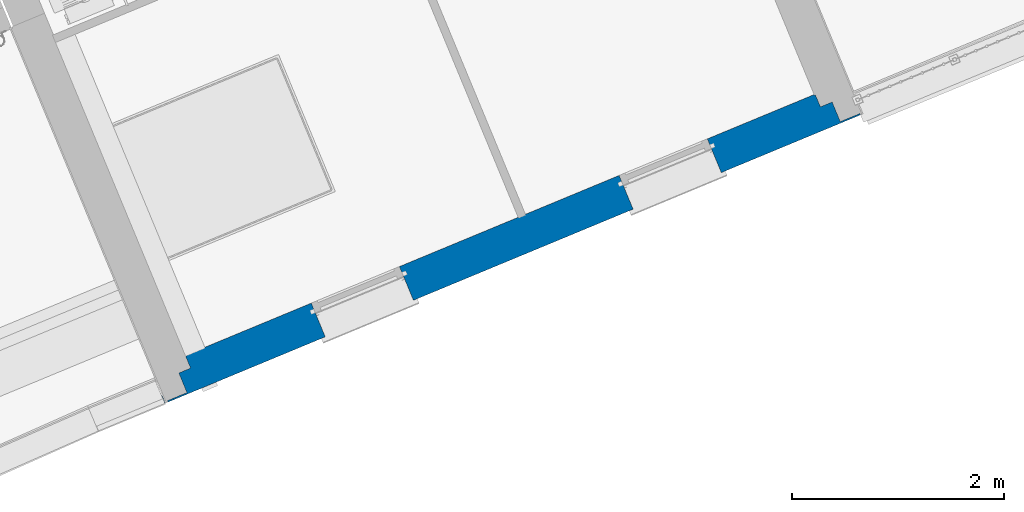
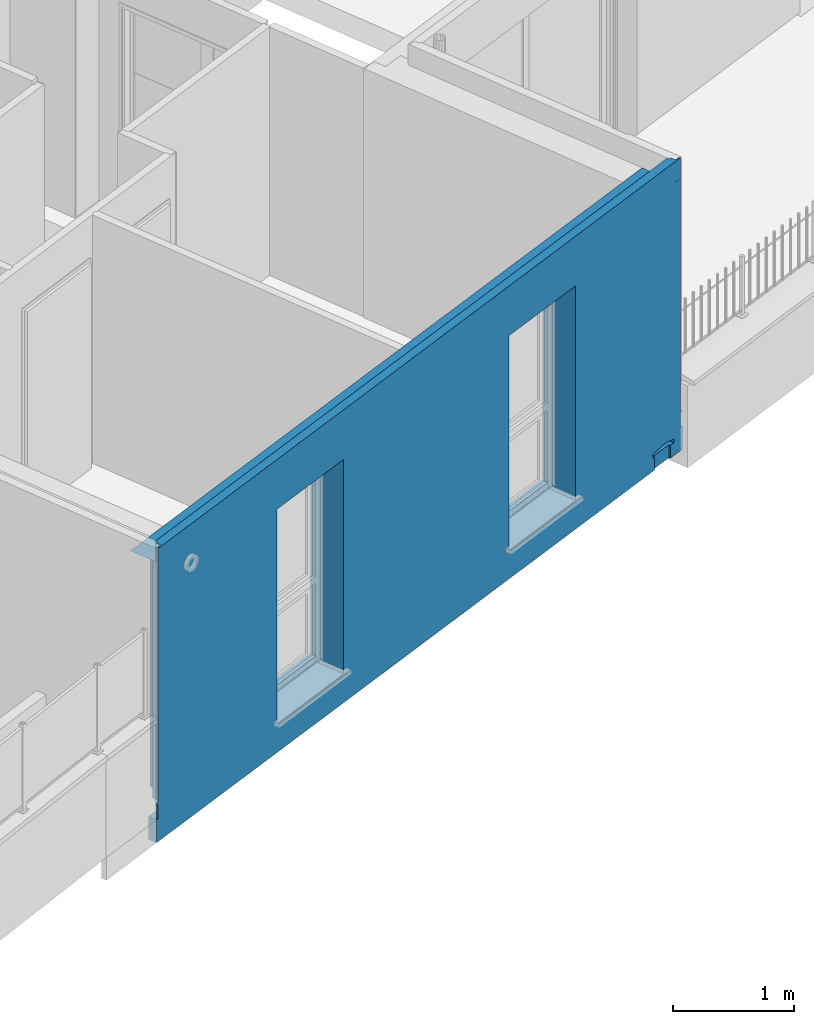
# One storey, part 10 of 119: 1 wall, 2 openings.
"""IFC2X3 building model written with IfcOpenShell, lengths in metres."""

from ifc_helpers import new_model, entity, si_unit, converted_unit, derived_unit, money_unit, direction, frame, origin_with_axes, place, context, subcontext, project, spatial, faceted_brep, material, material_list, type_object, element, save


model = new_model("IFC2X3")

# Units and contexts
model_context = context("Model", 3, precision=1e-05, world=origin_with_axes(), true_north=direction((0.0, 1.0)))
body_context = subcontext(model_context, "Body", "Model", "MODEL_VIEW")
ifc_project = project(units=[si_unit("LENGTHUNIT", "METRE"), si_unit("AREAUNIT", "SQUARE_METRE"), si_unit("VOLUMEUNIT", "CUBIC_METRE"), converted_unit("PLANEANGLEUNIT", "DEGREE", entity("IfcPlaneAngleMeasure", 0.0174532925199), si_unit("PLANEANGLEUNIT", "RADIAN"), dimensions=[0, 0, 0, 0, 0, 0, 0]), si_unit("SOLIDANGLEUNIT", "STERADIAN"), money_unit("EUR"), converted_unit("TIMEUNIT", "Year", entity("IfcTimeMeasure", 31556926.0), si_unit("TIMEUNIT", "SECOND"), dimensions=[0, 0, 1, 0, 0, 0, 0]), si_unit("MASSUNIT", "GRAM", prefix="KILO"), si_unit("THERMODYNAMICTEMPERATUREUNIT", "DEGREE_CELSIUS"), si_unit("LUMINOUSINTENSITYUNIT", "LUMEN"), si_unit("ENERGYUNIT", "JOULE", prefix="MEGA"), derived_unit("THERMALCONDUCTANCEUNIT", [(si_unit("POWERUNIT", "WATT"), 1), (si_unit("LENGTHUNIT", "METRE"), -1), (si_unit("THERMODYNAMICTEMPERATUREUNIT", "KELVIN"), -1)]), derived_unit("SPECIFICHEATCAPACITYUNIT", [(si_unit("ENERGYUNIT", "JOULE"), 1), (si_unit("MASSUNIT", "GRAM", prefix="KILO"), -1), (si_unit("THERMODYNAMICTEMPERATUREUNIT", "KELVIN"), -1)]), derived_unit("MASSDENSITYUNIT", [(si_unit("MASSUNIT", "GRAM", prefix="KILO"), 1), (si_unit("VOLUMEUNIT", "CUBIC_METRE"), -1)])], contexts=[model_context])

# Site, building, storey
site_placement = place(None, origin_with_axes())
site = spatial("IfcSite", under=ifc_project, at=site_placement, Name="Site", CompositionType="ELEMENT")
building_placement = place(site_placement, origin_with_axes())
building = spatial("IfcBuilding", under=site, at=building_placement, Name="Bâtiment", CompositionType="ELEMENT")
storey_placement = place(building_placement, origin_with_axes())
storey = spatial("IfcBuildingStorey", under=building, at=storey_placement, Name="Rez-de-chaussée", CompositionType="ELEMENT", Elevation=0.0)

# Wall, openings
ifc_material_1 = material(Name="Finition int - Plaque de plâtre")
ifc_material_2 = material(Name="Isolation - Polystyrène extrudé")
ifc_material_3 = material(Name="Bloc ELITHERM")
ifc_material_4 = material(Name="Isolation - Polystyrène expansé")
ifc_material_5 = material(Name="Mortier")
ifc_material_6 = material(Name="Béton cellulaire")
ifc_material_7 = material(Name="Finition ext - Crépis")
ifc_material_list = material_list([ifc_material_1, ifc_material_2, ifc_material_3, ifc_material_4, ifc_material_4, ifc_material_5, ifc_material_5, ifc_material_6, ifc_material_6, ifc_material_7])
wall_type = type_object("IfcWallType", Name="Mur ALKERN + planelle 21 + planelle 23 base 345 x 2950", PredefinedType="USERDEFINED")
wall_placement = place(storey_placement, frame((-20.1628373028, -28.2545382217, 0.0), z_axis=(0.0, 0.0, 1.0), x_axis=(0.923701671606, 0.383112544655, 0.0)))
wall = element("IfcWall", 1, at=wall_placement, inside=storey, type_object=wall_type, material=ifc_material_list, Name="Mue bloc ALKERN isolé", ObjectType="SOLIDWALL", context=body_context, shape_type="Brep", body=[
    faceted_brep([(6.77219489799, 0.350000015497, 0.207793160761), (6.77219489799, 0.350000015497, 2.50955001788), (6.78219487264, 0.350000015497, 2.50955001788), (6.90219490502, 0.350000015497, 2.50955001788), (7.0341948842, 0.350000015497, 2.50955), (7.0341948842, 0.350000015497, 2.50999999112), (0.0979999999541, 0.350000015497, 2.50999999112), (0.0979999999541, 0.350000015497, 2.50955), (0.229999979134, 0.350000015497, 2.50955001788), (0.350000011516, 0.350000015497, 2.50955001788), (0.359999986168, 0.350000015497, 2.50955001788), (0.359999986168, 0.350000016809, 2.5), (0.549999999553, 0.350000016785, 2.5), (0.549999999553, 0.350000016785, 2.3), (0.359999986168, 0.350000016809, 2.3), (0.359999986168, 0.350000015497, 0.207793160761), (0.359999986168, 0.350000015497, 0.176532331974), (0.359999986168, 0.350000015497, 0.169414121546), (0.359999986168, 0.350000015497, 0.160000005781), (0.359999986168, 0.350000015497, 0.133633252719), (0.359999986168, 0.350000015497, 0.0), (6.77219489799, 0.350000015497, 0.0), (6.77219489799, 0.350000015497, 0.133633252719), (6.77219489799, 0.350000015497, 0.160000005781), (6.77219489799, 0.350000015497, 0.169414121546), (6.77219489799, 0.350000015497, 0.176532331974), (1.63699944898, 0.350000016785, 2.22), (1.63699944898, 0.350000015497, 2.4), (2.53699944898, 0.350000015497, 2.4), (2.53699944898, 0.350000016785, 2.22), (2.53699944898, 0.350000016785, 0.12), (1.63699944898, 0.350000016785, 0.12), (4.7807972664, 0.350000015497, 2.22), (4.7807972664, 0.350000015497, 2.4), (5.6807972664, 0.350000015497, 2.4), (5.6807972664, 0.350000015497, 2.22), (5.6807972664, 0.350000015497, 0.12), (4.7807972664, 0.350000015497, 0.12), (6.77219489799, 0.35999998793, 0.207793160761), (6.77219489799, 0.35999998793, 2.50955001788), (6.78219487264, 0.35999998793, 2.50955001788), (6.90219490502, 0.35999998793, 2.50955001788), (7.0341948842, 0.35999998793, 2.50955), (7.0341948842, 0.35999998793, 2.50999999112), (0.0979999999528, 0.35999998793, 2.50999999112), (0.0979999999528, 0.35999998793, 2.50955), (0.229999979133, 0.35999998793, 2.50955001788), (0.350000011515, 0.35999998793, 2.50955001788), (0.359999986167, 0.35999998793, 2.50955001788), (0.359999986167, 0.35999998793, 2.50000000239), (0.549999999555, 0.35999998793, 2.50000000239), (0.549999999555, 0.35999998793, 2.3), (0.359999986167, 0.35999998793, 2.3), (0.359999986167, 0.35999998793, 0.207793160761), (0.359999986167, 0.35999998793, 0.176532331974), (0.359999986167, 0.35999998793, 0.169414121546), (0.359999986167, 0.35999998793, 0.160000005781), (0.359999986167, 0.35999998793, 0.133633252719), (0.359999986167, 0.35999998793, 0.0), (6.77219489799, 0.35999998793, 0.0), (6.77219489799, 0.35999998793, 0.133633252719), (6.77219489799, 0.35999998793, 0.160000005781), (6.77219489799, 0.35999998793, 0.169414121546), (6.77219489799, 0.35999998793, 0.176532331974), (1.63699944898, 0.35999998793, 2.22), (1.63699944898, 0.35999998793, 2.4), (2.53699944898, 0.35999998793, 2.4), (2.53699944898, 0.35999998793, 2.22), (2.53699944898, 0.35999998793, 0.12), (1.63699944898, 0.35999998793, 0.12), (4.7807972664, 0.35999998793, 2.22), (4.7807972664, 0.35999998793, 2.4), (5.6807972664, 0.35999998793, 2.4), (5.6807972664, 0.35999998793, 2.22), (5.6807972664, 0.35999998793, 0.12), (4.7807972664, 0.35999998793, 0.12)], [[[0, 1, 2, 3, 4, 5, 6, 7, 8, 9, 10, 11, 12, 13, 14, 15, 16, 17, 18, 19, 20, 21, 22, 23, 24, 25], [26, 27, 28, 29, 30, 31], [32, 33, 34, 35, 36, 37]], [[38, 39, 1, 0]], [[1, 39, 40, 2]], [[41, 3, 2, 40]], [[42, 4, 3, 41]], [[43, 5, 4, 42]], [[5, 43, 44, 6]], [[44, 45, 7, 6]], [[46, 8, 7, 45]], [[47, 9, 8, 46]], [[10, 9, 47, 48]], [[48, 49, 11, 10]], [[50, 12, 11, 49]], [[51, 13, 12, 50]], [[52, 14, 13, 51]], [[15, 14, 52, 53]], [[15, 53, 54, 16]], [[16, 54, 55, 17]], [[18, 17, 55, 56]], [[19, 18, 56, 57]], [[58, 20, 19, 57]], [[20, 58, 59, 21]], [[60, 22, 21, 59]], [[23, 22, 60, 61]], [[24, 23, 61, 62]], [[24, 62, 63, 25]], [[25, 63, 38, 0]], [[64, 65, 27, 26]], [[65, 66, 28, 27]], [[66, 67, 29, 28]], [[68, 30, 29, 67]], [[69, 31, 30, 68]], [[31, 69, 64, 26]], [[33, 32, 70, 71]], [[34, 33, 71, 72]], [[35, 34, 72, 73]], [[35, 73, 74, 36]], [[36, 74, 75, 37]], [[70, 32, 37, 75]], [[63, 62, 61, 60, 59, 58, 57, 56, 55, 54, 53, 52, 51, 50, 49, 48, 47, 46, 45, 44, 43, 42, 41, 40, 39, 38], [65, 64, 69, 68, 67, 66], [71, 70, 75, 74, 73, 72]]]),
    faceted_brep([(5.6807972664, 0.26, 0.12), (5.6807972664, 0.229999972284, 0.12), (5.6807972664, 0.23, 2.22), (5.6807972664, 0.26, 2.22), (5.6807972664, 0.229999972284, 0.06), (5.6807972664, 0.301, 0.12), (5.6807972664, 0.301, 0.06), (6.78219487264, 0.229999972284, 0.176532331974), (6.78219487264, 0.229999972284, 0.207793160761), (6.78219487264, 0.229999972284, 2.50955001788), (6.90219490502, 0.229999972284, 2.50955001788), (7.0341948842, 0.229999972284, 2.50955), (7.0341948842, 0.229999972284, 2.50999999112), (0.0979999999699, 0.229999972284, 2.50999999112), (0.0979999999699, 0.229999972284, 2.50955), (0.22999997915, 0.229999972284, 2.50955001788), (0.350000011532, 0.229999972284, 2.50955001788), (0.350000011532, 0.229999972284, 0.207793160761), (0.350000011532, 0.229999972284, 0.176532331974), (0.350000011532, 0.229999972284, 0.169414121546), (0.350000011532, 0.229999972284, 0.160000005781), (0.350000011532, 0.229999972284, 0.133633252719), (0.350000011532, 0.229999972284, 0.0), (6.78219487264, 0.229999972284, 0.0), (6.78219487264, 0.229999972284, 0.133633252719), (6.78219487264, 0.229999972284, 0.160000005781), (6.78219487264, 0.229999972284, 0.169414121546), (2.53699944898, 0.23, 2.4), (2.53699944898, 0.23, 2.22), (2.53699944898, 0.229999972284, 0.12), (2.53699944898, 0.229999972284, 0.06), (1.63699944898, 0.229999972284, 0.06), (1.63699944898, 0.229999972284, 0.12), (1.63699944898, 0.23, 2.22), (1.63699944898, 0.23, 2.4), (4.7807972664, 0.229999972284, 0.06), (4.7807972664, 0.229999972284, 0.12), (4.7807972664, 0.23, 2.22), (4.7807972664, 0.23, 2.4), (5.6807972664, 0.23, 2.4), (5.6807972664, 0.350000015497, 2.4), (5.6807972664, 0.350000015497, 2.22), (5.6807972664, 0.350000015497, 0.12), (4.7807972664, 0.301, 0.12), (4.7807972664, 0.301, 0.06), (6.78219487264, 0.350000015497, 0.207793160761), (6.78219487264, 0.350000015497, 0.176532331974), (6.78219487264, 0.350000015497, 2.50955001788), (6.90219490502, 0.350000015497, 2.50955001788), (7.0341948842, 0.350000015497, 2.50955), (7.0341948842, 0.350000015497, 2.50999999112), (0.0979999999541, 0.350000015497, 2.50999999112), (0.0979999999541, 0.350000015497, 2.50955), (0.229999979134, 0.350000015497, 2.50955001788), (0.350000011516, 0.350000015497, 2.50955001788), (0.350000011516, 0.350000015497, 0.207793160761), (0.350000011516, 0.350000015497, 0.176532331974), (0.350000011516, 0.350000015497, 0.169414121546), (0.350000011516, 0.350000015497, 0.160000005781), (0.350000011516, 0.350000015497, 0.133633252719), (0.350000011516, 0.350000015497, 0.0), (6.78219487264, 0.350000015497, 0.0), (6.78219487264, 0.350000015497, 0.133633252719), (6.78219487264, 0.350000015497, 0.160000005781), (6.78219487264, 0.350000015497, 0.169414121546), (2.53699944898, 0.350000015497, 2.4), (2.53699944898, 0.350000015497, 2.22), (2.53699944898, 0.26, 2.22), (2.53699944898, 0.26, 0.12), (2.53699944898, 0.301, 0.12), (2.53699944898, 0.301, 0.06), (1.63699944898, 0.301, 0.06), (1.63699944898, 0.301, 0.12), (1.63699944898, 0.26, 0.12), (1.63699944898, 0.26, 2.22), (1.63699944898, 0.350000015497, 2.22), (1.63699944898, 0.350000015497, 2.4), (4.7807972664, 0.26, 0.12), (4.7807972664, 0.26, 2.22), (4.7807972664, 0.350000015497, 2.22), (4.7807972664, 0.350000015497, 2.4), (2.53699944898, 0.350000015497, 0.12), (1.63699944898, 0.350000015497, 0.12), (4.7807972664, 0.350000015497, 0.12)], [[[0, 1, 2, 3]], [[4, 1, 0, 5, 6]], [[7, 8, 9, 10, 11, 12, 13, 14, 15, 16, 17, 18, 19, 20, 21, 22, 23, 24, 25, 26], [27, 28, 29, 30, 31, 32, 33, 34], [35, 36, 37, 38, 39, 2, 1, 4]], [[40, 41, 3, 2, 39]], [[5, 0, 3, 41, 42]], [[5, 43, 44, 6]], [[35, 4, 6, 44]], [[45, 8, 7, 46]], [[9, 8, 45, 47]], [[48, 10, 9, 47]], [[10, 48, 49, 11]], [[11, 49, 50, 12]], [[12, 50, 51, 13]], [[51, 52, 14, 13]], [[53, 15, 14, 52]], [[16, 15, 53, 54]], [[17, 16, 54, 55]], [[17, 55, 56, 18]], [[56, 57, 19, 18]], [[57, 58, 20, 19]], [[59, 21, 20, 58]], [[60, 22, 21, 59]], [[60, 61, 23, 22]], [[23, 61, 62, 24]], [[24, 62, 63, 25]], [[26, 25, 63, 64]], [[7, 26, 64, 46]], [[28, 27, 65, 66, 67]], [[68, 29, 28, 67]], [[69, 70, 30, 29, 68]], [[31, 30, 70, 71]], [[71, 72, 73, 32, 31]], [[32, 73, 74, 33]], [[34, 33, 74, 75, 76]], [[34, 76, 65, 27]], [[77, 36, 35, 44, 43]], [[36, 77, 78, 37]], [[78, 79, 80, 38, 37]], [[38, 80, 40, 39]], [[58, 57, 56, 55, 54, 53, 52, 51, 50, 49, 48, 47, 45, 46, 64, 63, 62, 61, 60, 59], [81, 66, 65, 76, 75, 82], [42, 41, 40, 80, 79, 83]], [[43, 5, 42, 83]], [[66, 81, 69, 68, 67]], [[69, 72, 71, 70]], [[75, 74, 73, 72, 82]], [[77, 43, 83, 79, 78]], [[72, 69, 81, 82]]]),
    faceted_brep([(5.6807972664, 0.229999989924, 0.12), (5.6807972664, 0.03, 0.12), (5.6807972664, 0.03, 2.22), (5.6807972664, 0.229999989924, 2.22), (5.6807972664, 0.03, 0.06), (5.6807972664, 0.229999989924, 0.06), (0.229999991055, 0.03, 0.160000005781), (0.229999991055, 0.03, 0.133633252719), (0.229999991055, 0.03, 0.0), (6.90219489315, 0.03, 0.0), (6.90219489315, 0.03, 0.133633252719), (6.90219489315, 0.03, 0.160000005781), (6.90219489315, 0.03, 0.169414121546), (6.90219489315, 0.03, 0.176532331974), (6.90219489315, 0.03, 0.207793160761), (6.90219489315, 0.03, 2.50955001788), (7.0341948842, 0.03, 2.50955), (7.0341948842, 0.03, 2.50999999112), (0.0979999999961, 0.03, 2.50999999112), (0.0979999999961, 0.03, 2.50955), (0.229999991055, 0.03, 2.50955001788), (0.229999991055, 0.03, 0.207793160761), (0.229999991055, 0.03, 0.176532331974), (0.229999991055, 0.03, 0.169414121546), (1.63699944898, 0.03, 0.06), (1.63699944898, 0.03, 0.12), (1.63699944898, 0.03, 2.22), (2.53699944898, 0.03, 2.22), (2.53699944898, 0.03, 0.12), (2.53699944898, 0.03, 0.06), (4.7807972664, 0.03, 0.06), (4.7807972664, 0.03, 0.12), (4.7807972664, 0.03, 2.22), (4.7807972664, 0.229999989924, 2.22), (6.90219489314, 0.229999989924, 0.176532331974), (6.90219489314, 0.229999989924, 0.169414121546), (6.90219489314, 0.229999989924, 0.160000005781), (6.90219489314, 0.229999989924, 0.133633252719), (6.90219489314, 0.229999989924, 0.0), (0.229999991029, 0.229999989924, 0.0), (0.229999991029, 0.229999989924, 0.133633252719), (0.229999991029, 0.229999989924, 0.160000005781), (0.229999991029, 0.229999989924, 0.169414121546), (0.229999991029, 0.229999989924, 0.176532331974), (0.229999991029, 0.229999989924, 0.207793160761), (0.229999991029, 0.229999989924, 2.50955001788), (0.0979999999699, 0.229999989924, 2.50955), (0.0979999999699, 0.229999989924, 2.50999999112), (7.0341948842, 0.229999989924, 2.50999999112), (7.0341948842, 0.229999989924, 2.50955), (6.90219489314, 0.229999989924, 2.50955001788), (6.90219489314, 0.229999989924, 0.207793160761), (2.53699944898, 0.229999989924, 0.06), (2.53699944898, 0.229999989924, 0.12), (2.53699944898, 0.229999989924, 2.22), (1.63699944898, 0.229999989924, 2.22), (1.63699944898, 0.229999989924, 0.12), (1.63699944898, 0.229999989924, 0.06), (4.7807972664, 0.229999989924, 0.12), (4.7807972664, 0.229999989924, 0.06), (0.229999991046, 0.0980000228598, 0.0), (6.90219489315, 0.0980000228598, 0.0), (7.0341948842, 0.0979999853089, 2.50999999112), (0.0979999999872, 0.0979999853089, 2.50999999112)], [[[0, 1, 2, 3]], [[4, 1, 0, 5]], [[6, 7, 8, 9, 10, 11, 12, 13, 14, 15, 16, 17, 18, 19, 20, 21, 22, 23], [24, 25, 26, 27, 28, 29], [30, 31, 32, 2, 1, 4]], [[32, 33, 3, 2]], [[34, 35, 36, 37, 38, 39, 40, 41, 42, 43, 44, 45, 46, 47, 48, 49, 50, 51], [52, 53, 54, 55, 56, 57], [5, 0, 3, 33, 58, 59]], [[30, 4, 5, 59]], [[7, 6, 41, 40]], [[40, 39, 60, 8, 7]], [[8, 60, 61, 9]], [[61, 38, 37, 10, 9]], [[11, 10, 37, 36]], [[36, 35, 12, 11]], [[12, 35, 34, 13]], [[51, 14, 13, 34]], [[15, 14, 51, 50]], [[15, 50, 49, 16]], [[62, 17, 16, 49, 48]], [[63, 18, 17, 62]], [[47, 46, 19, 18, 63]], [[19, 46, 45, 20]], [[45, 44, 21, 20]], [[43, 22, 21, 44]], [[22, 43, 42, 23]], [[42, 41, 6, 23]], [[24, 57, 56, 25]], [[55, 26, 25, 56]], [[54, 27, 26, 55]], [[27, 54, 53, 28]], [[53, 52, 29, 28]], [[52, 57, 24, 29]], [[58, 31, 30, 59]], [[31, 58, 33, 32]], [[60, 39, 38, 61]], [[47, 63, 62, 48]]]),
    faceted_brep([(6.73413782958, 0.0779999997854, -0.1), (6.73413782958, 0.0779999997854, -0.06), (6.84913782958, 0.0779999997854, -0.0400000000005), (6.89913782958, 0.0779999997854, -0.0400000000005), (7.01413782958, 0.0779999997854, -0.06), (7.01413782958, 0.0779999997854, -0.1), (6.9664487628, 0.0779999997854, -0.1), (6.9664487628, 0.0779999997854, -0.23), (7.13219488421, 0.0779999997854, -0.23), (7.13219488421, 0.0779999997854, -0.0300000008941), (0.0, 0.0779999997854, -0.0300000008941), (0.0, 0.0779999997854, -0.23), (6.7514487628, 0.0779999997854, -0.23), (6.7514487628, 0.0779999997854, -0.1), (6.73413782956, 0.0980000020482, -0.1), (6.73413782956, 0.0980000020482, -0.06), (6.84913782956, 0.0980000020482, -0.0400000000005), (6.89913782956, 0.0980000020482, -0.0400000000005), (7.01413782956, 0.0980000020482, -0.06), (7.01413782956, 0.0980000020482, -0.1), (6.96644876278, 0.0980000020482, -0.1), (6.96644876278, 0.0980000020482, -0.23), (7.13219488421, 0.0980000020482, -0.23), (7.13219488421, 0.0980000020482, -0.0300000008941), (0.0, 0.0980000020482, -0.0300000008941), (0.0, 0.0980000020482, -0.23), (6.75144876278, 0.0980000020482, -0.23), (6.75144876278, 0.0980000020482, -0.1)], [[[0, 1, 2, 3, 4, 5, 6, 7, 8, 9, 10, 11, 12, 13]], [[14, 15, 1, 0]], [[15, 16, 2, 1]], [[16, 17, 3, 2]], [[17, 18, 4, 3]], [[18, 19, 5, 4]], [[19, 20, 6, 5]], [[21, 7, 6, 20]], [[22, 8, 7, 21]], [[9, 8, 22, 23]], [[23, 24, 10, 9]], [[10, 24, 25, 11]], [[11, 25, 26, 12]], [[12, 26, 27, 13]], [[27, 14, 0, 13]], [[16, 15, 14, 27, 26, 25, 24, 23, 22, 21, 20, 19, 18, 17]]]),
    faceted_brep([(7.03419488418, 0.098000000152, 2.72), (0.0980000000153, 0.098000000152, 2.72), (0.0980000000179, 0.0780000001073, 2.72), (7.03419488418, 0.0780000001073, 2.72), (7.03419488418, 0.098000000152, 2.51999999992), (0.0980000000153, 0.098000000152, 2.51999999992), (0.0980000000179, 0.0780000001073, 2.51999999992), (7.03419488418, 0.0780000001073, 2.51999999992)], [[[0, 1, 2, 3]], [[4, 5, 1, 0]], [[5, 6, 2, 1]], [[3, 2, 6, 7]], [[4, 0, 3, 7]], [[7, 6, 5, 4]]]),
    faceted_brep([(0.0979999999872, 0.098, 2.52), (0.0979999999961, 0.03, 2.52), (7.0341948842, 0.03, 2.52), (7.0341948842, 0.098, 2.52), (0.0979999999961, 0.03, 2.50999999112), (0.0979999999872, 0.098, 2.50999999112), (7.0341948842, 0.03, 2.50999999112), (7.0341948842, 0.098, 2.50999999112)], [[[0, 1, 2, 3]], [[4, 1, 0, 5]], [[1, 4, 6, 2]], [[3, 2, 6, 7]], [[5, 0, 3, 7]], [[4, 5, 7, 6]]]),
    faceted_brep([(7.13219488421, 0.03, -0.03), (7.13219488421, 0.03, 6.84407863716e-09), (0.0, 0.03, 6.84407863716e-09), (0.0, 0.03, -0.03), (7.13219488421, 0.0980000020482, 2.06637522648e-08), (7.13219488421, 0.0980000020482, -0.03), (0.0, 0.0980000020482, 2.06637522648e-08), (0.0, 0.0980000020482, -0.03)], [[[0, 1, 2, 3]], [[4, 1, 0, 5]], [[1, 4, 6, 2]], [[3, 2, 6, 7]], [[5, 0, 3, 7]], [[4, 5, 7, 6]]]),
    faceted_brep([(0.0, 0.0780000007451, -0.0300000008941), (7.13219488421, 0.0780000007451, -0.0300000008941), (7.13219488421, 0.0780000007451, -0.23), (0.0, 0.0780000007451, -0.23), (6.73413782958, 0.0780000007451, -0.1), (7.01413782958, 0.0780000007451, -0.1), (7.01413782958, 0.0780000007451, -0.06), (6.89913782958, 0.0780000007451, -0.0400000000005), (6.84913782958, 0.0780000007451, -0.0400000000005), (6.73413782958, 0.0780000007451, -0.06), (0.0, 0.03, -0.0300000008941), (7.13219488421, 0.03, -0.0300000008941), (7.13219488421, 0.03, -0.23), (0.0, 0.03, -0.23), (6.73413782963, 0.03, -0.1), (7.01413782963, 0.03, -0.1), (7.01413782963, 0.03, -0.06), (6.89913782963, 0.03, -0.0400000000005), (6.84913782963, 0.03, -0.0400000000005), (6.73413782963, 0.03, -0.06)], [[[0, 1, 2, 3], [4, 5, 6, 7, 8, 9]], [[10, 11, 1, 0]], [[2, 1, 11, 12]], [[3, 2, 12, 13]], [[3, 13, 10, 0]], [[14, 15, 5, 4]], [[15, 16, 6, 5]], [[16, 17, 7, 6]], [[17, 18, 8, 7]], [[18, 19, 9, 8]], [[19, 14, 4, 9]], [[13, 12, 11, 10], [18, 17, 16, 15, 14, 19]]]),
    faceted_brep([(0.0780000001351, 0.0779999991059, 2.72), (0.0780000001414, 0.03, 2.72), (7.05419488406, 0.03, 2.72), (7.05419488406, 0.0779999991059, 2.72), (0.0780000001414, 0.03, 2.51999999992), (0.0780000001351, 0.0779999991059, 2.51999999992), (7.05419488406, 0.03, 2.51999999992), (7.05419488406, 0.0779999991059, 2.51999999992)], [[[0, 1, 2, 3]], [[4, 1, 0, 5]], [[1, 4, 6, 2]], [[3, 2, 6, 7]], [[5, 0, 3, 7]], [[4, 5, 7, 6]]]),
    faceted_brep([(5.6807972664, 0.0299999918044, 0.12), (5.6807972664, 0.015, 0.12), (5.6807972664, 0.015, 2.22), (5.6807972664, 0.0299999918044, 2.22), (5.6807972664, 0.015, 0.06), (5.6807972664, 0.0299999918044, 0.06), (7.13219488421, 0.0150000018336, 0.0), (7.11219490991, 0.015, 0.0), (7.11219490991, 0.015, 0.133633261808), (7.12740005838, 0.015, 0.133633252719), (7.12740005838, 0.015, 0.161852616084), (7.10219488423, 0.015, 0.169414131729), (7.10114948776, 0.015, 0.169727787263), (7.10114948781, 0.015, 0.207793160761), (7.1021948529, 0.015, 0.207793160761), (7.10219488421, 0.015, 2.50955), (7.03419488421, 0.015, 2.50955), (7.03419488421, 0.015, 2.50999999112), (7.10219488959, 0.015, 2.50999999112), (7.10219489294, 0.015, 2.72), (0.0299999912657, 0.015, 2.72), (0.0299999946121, 0.015, 2.50999999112), (0.097999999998, 0.015, 2.50999999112), (0.097999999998, 0.015, 2.50955), (0.029999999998, 0.015, 2.50955), (0.0300000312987, 0.015, 0.207793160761), (0.0310453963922, 0.015, 0.207793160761), (0.0310453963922, 0.015, 0.169727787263), (0.0299999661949, 0.015, 0.169414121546), (0.00479482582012, 0.015, 0.161852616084), (0.00479482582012, 0.015, 0.133633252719), (0.0200000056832, 0.015, 0.133633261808), (0.0200000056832, 0.015, 0.0), (0.0, 0.0150000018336, 0.0), (0.0, 0.0150000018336, -0.23), (6.75144876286, 0.0150000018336, -0.23), (6.75144876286, 0.015, -0.1), (6.73413782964, 0.015, -0.1), (6.73413782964, 0.015, -0.06), (6.84913782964, 0.015, -0.0400000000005), (6.89913782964, 0.015, -0.0400000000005), (7.01413782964, 0.015, -0.06), (7.01413782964, 0.015, -0.1), (6.96644876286, 0.015, -0.1), (6.96644876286, 0.0150000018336, -0.23), (7.13219488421, 0.0150000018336, -0.23), (1.63699944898, 0.015, 0.06), (1.63699944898, 0.015, 0.12), (1.63699944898, 0.015, 2.22), (2.53699944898, 0.015, 2.22), (2.53699944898, 0.015, 0.12), (2.53699944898, 0.015, 0.06), (4.7807972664, 0.015, 0.06), (4.7807972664, 0.015, 0.12), (4.7807972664, 0.015, 2.22), (4.7807972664, 0.0299999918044, 2.22), (0.0, 0.0299999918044, -0.23), (0.0, 0.0299999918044, 0.0), (0.0200000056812, 0.0299999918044, 0.0), (0.0200000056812, 0.0299999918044, 0.133633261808), (0.00479482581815, 0.0299999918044, 0.133633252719), (0.00479482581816, 0.0299999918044, 0.161852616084), (0.0299999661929, 0.0299999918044, 0.169414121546), (0.0310453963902, 0.0299999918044, 0.169727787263), (0.0310453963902, 0.0299999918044, 0.207793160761), (0.0300000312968, 0.0299999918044, 0.207793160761), (0.0299999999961, 0.0299999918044, 2.50955), (0.0979999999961, 0.0299999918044, 2.50955), (0.0979999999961, 0.0299999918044, 2.50999999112), (0.0299999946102, 0.0299999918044, 2.50999999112), (0.0299999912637, 0.0299999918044, 2.72), (7.10219489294, 0.0299999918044, 2.72), (7.10219488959, 0.0299999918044, 2.50999999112), (7.0341948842, 0.0299999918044, 2.50999999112), (7.0341948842, 0.0299999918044, 2.50955), (7.1021948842, 0.0299999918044, 2.50955), (7.1021948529, 0.0299999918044, 0.207793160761), (7.10114948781, 0.0299999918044, 0.207793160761), (7.10114948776, 0.0299999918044, 0.169727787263), (7.10219488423, 0.0299999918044, 0.169414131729), (7.12740005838, 0.0299999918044, 0.161852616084), (7.12740005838, 0.0299999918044, 0.133633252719), (7.11219490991, 0.0299999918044, 0.133633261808), (7.11219490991, 0.0299999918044, 0.0), (7.13219488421, 0.0299999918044, 0.0), (7.13219488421, 0.0299999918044, -0.23), (6.96644876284, 0.0299999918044, -0.23), (6.96644876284, 0.0299999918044, -0.1), (7.01413782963, 0.0299999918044, -0.1), (7.01413782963, 0.0299999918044, -0.06), (6.89913782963, 0.0299999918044, -0.0400000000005), (6.84913782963, 0.0299999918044, -0.0400000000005), (6.73413782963, 0.0299999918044, -0.06), (6.73413782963, 0.0299999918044, -0.1), (6.75144876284, 0.0299999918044, -0.1), (6.75144876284, 0.0299999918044, -0.23), (2.53699944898, 0.0299999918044, 0.06), (2.53699944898, 0.0299999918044, 0.12), (2.53699944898, 0.0299999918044, 2.22), (1.63699944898, 0.0299999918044, 2.22), (1.63699944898, 0.0299999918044, 0.12), (1.63699944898, 0.0299999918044, 0.06), (4.7807972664, 0.0299999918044, 0.12), (4.7807972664, 0.0299999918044, 0.06)], [[[0, 1, 2, 3]], [[4, 1, 0, 5]], [[6, 7, 8, 9, 10, 11, 12, 13, 14, 15, 16, 17, 18, 19, 20, 21, 22, 23, 24, 25, 26, 27, 28, 29, 30, 31, 32, 33, 34, 35, 36, 37, 38, 39, 40, 41, 42, 43, 44, 45], [46, 47, 48, 49, 50, 51], [52, 53, 54, 2, 1, 4]], [[54, 55, 3, 2]], [[56, 57, 58, 59, 60, 61, 62, 63, 64, 65, 66, 67, 68, 69, 70, 71, 72, 73, 74, 75, 76, 77, 78, 79, 80, 81, 82, 83, 84, 85, 86, 87, 88, 89, 90, 91, 92, 93, 94, 95], [96, 97, 98, 99, 100, 101], [5, 0, 3, 55, 102, 103]], [[52, 4, 5, 103]], [[6, 84, 83, 7]], [[7, 83, 82, 8]], [[8, 82, 81, 9]], [[9, 81, 80, 10]], [[10, 80, 79, 11]], [[79, 78, 12, 11]], [[12, 78, 77, 13]], [[13, 77, 76, 14]], [[14, 76, 75, 15]], [[75, 74, 16, 15]], [[74, 73, 17, 16]], [[17, 73, 72, 18]], [[18, 72, 71, 19]], [[19, 71, 70, 20]], [[69, 21, 20, 70]], [[68, 22, 21, 69]], [[68, 67, 23, 22]], [[67, 66, 24, 23]], [[65, 25, 24, 66]], [[64, 26, 25, 65]], [[63, 27, 26, 64]], [[63, 62, 28, 27]], [[61, 29, 28, 62]], [[60, 30, 29, 61]], [[59, 31, 30, 60]], [[31, 59, 58, 32]], [[32, 58, 57, 33]], [[57, 56, 34, 33]], [[34, 56, 95, 35]], [[35, 95, 94, 36]], [[94, 93, 37, 36]], [[93, 92, 38, 37]], [[92, 91, 39, 38]], [[91, 90, 40, 39]], [[90, 89, 41, 40]], [[89, 88, 42, 41]], [[88, 87, 43, 42]], [[86, 44, 43, 87]], [[85, 45, 44, 86]], [[6, 45, 85, 84]], [[46, 101, 100, 47]], [[99, 48, 47, 100]], [[98, 49, 48, 99]], [[49, 98, 97, 50]], [[97, 96, 51, 50]], [[96, 101, 46, 51]], [[102, 53, 52, 103]], [[53, 102, 55, 54]]]),
])
opening_1_placement = place(wall_placement, frame((2.08699944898, 0.0, 0.12), z_axis=(0.0, 0.0, 1.0), x_axis=(1.0, 0.0, 0.0)))
element("IfcOpeningElement", 2, at=opening_1_placement, cuts=wall, Name="MEN 25", context=body_context, shape_type="Brep", body=[
    faceted_brep([(-0.45, 0.84999998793, 0.0), (0.45, 0.84999998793, 0.0), (0.45, 0.26, 0.0), (-0.45, 0.26, 0.0), (-0.45, 0.84999998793, 2.1), (0.45, 0.84999998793, 2.1), (0.45, 0.26, 2.1), (-0.45, 0.26, 2.1)], [[[0, 1, 2, 3]], [[0, 4, 5, 1]], [[1, 5, 6, 2]], [[3, 2, 6, 7]], [[4, 0, 3, 7]], [[5, 4, 7, 6]]]),
    faceted_brep([(-0.45, -0.32999998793, 0.0), (-0.45, -0.32999998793, 2.1), (-0.45, 0.26, 2.1), (-0.45, 0.26, 0.0), (0.45, -0.32999998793, 0.0), (0.45, -0.32999998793, 2.1), (0.45, 0.26, 2.1), (0.45, 0.26, 0.0)], [[[0, 1, 2, 3]], [[0, 4, 5, 1]], [[1, 5, 6, 2]], [[3, 2, 6, 7]], [[4, 0, 3, 7]], [[5, 4, 7, 6]]]),
    faceted_brep([(-0.45, -0.32999998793, 0.0), (-0.45, -0.32999998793, 2.1), (-0.45, 0.26, 2.1), (-0.45, 0.26, 0.0), (0.45, -0.32999998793, 0.0), (0.45, -0.32999998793, 2.1), (0.45, 0.26, 2.1), (0.45, 0.26, 0.0)], [[[0, 1, 2, 3]], [[0, 4, 5, 1]], [[1, 5, 6, 2]], [[3, 2, 6, 7]], [[4, 0, 3, 7]], [[5, 4, 7, 6]]]),
    faceted_brep([(-0.45, 0.81999998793, 2.1), (0.45, 0.81999998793, 2.1), (0.45, 0.23, 2.1), (-0.45, 0.23, 2.1), (-0.45, 0.81999998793, 2.28), (0.45, 0.81999998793, 2.28), (0.45, 0.23, 2.28), (-0.45, 0.23, 2.28)], [[[0, 1, 2, 3]], [[0, 4, 5, 1]], [[1, 5, 6, 2]], [[3, 2, 6, 7]], [[4, 0, 3, 7]], [[5, 4, 7, 6]]]),
    faceted_brep([(-0.45, -0.28899998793, 0.0), (0.45, -0.28899998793, 0.0), (0.45, 0.301, 0.0), (-0.45, 0.301, 0.0), (-0.45, -0.28899998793, -0.06), (0.45, -0.28899998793, -0.06), (0.45, 0.301, -0.06), (-0.45, 0.301, -0.06)], [[[0, 1, 2, 3]], [[0, 4, 5, 1]], [[1, 5, 6, 2]], [[3, 2, 6, 7]], [[4, 0, 3, 7]], [[5, 4, 7, 6]]]),
])
opening_2_placement = place(wall_placement, frame((5.2307972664, 0.0, 0.12), z_axis=(0.0, 0.0, 1.0), x_axis=(1.0, 0.0, 0.0)))
element("IfcOpeningElement", 3, at=opening_2_placement, cuts=wall, Name="MEN 26", context=body_context, shape_type="Brep", body=[
    faceted_brep([(0.45, 0.26, 0.0), (-0.45, 0.26, 0.0), (-0.45, 0.84999998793, 0.0), (0.45, 0.84999998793, 0.0), (0.45, 0.26, 2.1), (-0.45, 0.26, 2.1), (-0.45, 0.84999998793, 2.1), (0.45, 0.84999998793, 2.1)], [[[0, 1, 2, 3]], [[0, 4, 5, 1]], [[1, 5, 6, 2]], [[3, 2, 6, 7]], [[4, 0, 3, 7]], [[5, 4, 7, 6]]]),
    faceted_brep([(0.45, 0.26, 0.0), (0.45, 0.26, 2.1), (0.45, -0.32999998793, 2.1), (0.45, -0.32999998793, 0.0), (-0.45, 0.26, 0.0), (-0.45, 0.26, 2.1), (-0.45, -0.32999998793, 2.1), (-0.45, -0.32999998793, 0.0)], [[[0, 1, 2, 3]], [[0, 4, 5, 1]], [[1, 5, 6, 2]], [[3, 2, 6, 7]], [[4, 0, 3, 7]], [[5, 4, 7, 6]]]),
    faceted_brep([(0.45, 0.26, 0.0), (0.45, 0.26, 2.1), (0.45, -0.32999998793, 2.1), (0.45, -0.32999998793, 0.0), (-0.45, 0.26, 0.0), (-0.45, 0.26, 2.1), (-0.45, -0.32999998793, 2.1), (-0.45, -0.32999998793, 0.0)], [[[0, 1, 2, 3]], [[0, 4, 5, 1]], [[1, 5, 6, 2]], [[3, 2, 6, 7]], [[4, 0, 3, 7]], [[5, 4, 7, 6]]]),
    faceted_brep([(0.45, 0.23, 2.1), (-0.45, 0.23, 2.1), (-0.45, 0.81999998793, 2.1), (0.45, 0.81999998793, 2.1), (0.45, 0.23, 2.28), (-0.45, 0.23, 2.28), (-0.45, 0.81999998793, 2.28), (0.45, 0.81999998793, 2.28)], [[[0, 1, 2, 3]], [[0, 4, 5, 1]], [[1, 5, 6, 2]], [[3, 2, 6, 7]], [[4, 0, 3, 7]], [[5, 4, 7, 6]]]),
    faceted_brep([(0.45, 0.301, 0.0), (-0.45, 0.301, 0.0), (-0.45, -0.28899998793, 0.0), (0.45, -0.28899998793, 0.0), (0.45, 0.301, -0.06), (-0.45, 0.301, -0.06), (-0.45, -0.28899998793, -0.06), (0.45, -0.28899998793, -0.06)], [[[0, 1, 2, 3]], [[0, 4, 5, 1]], [[1, 5, 6, 2]], [[3, 2, 6, 7]], [[4, 0, 3, 7]], [[5, 4, 7, 6]]]),
])

save(model, "model.ifc")
